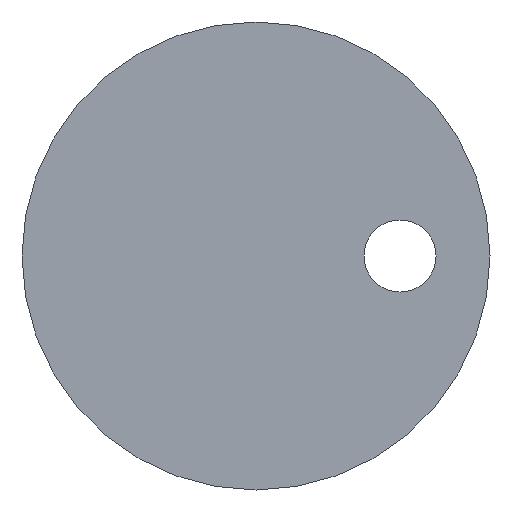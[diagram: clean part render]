
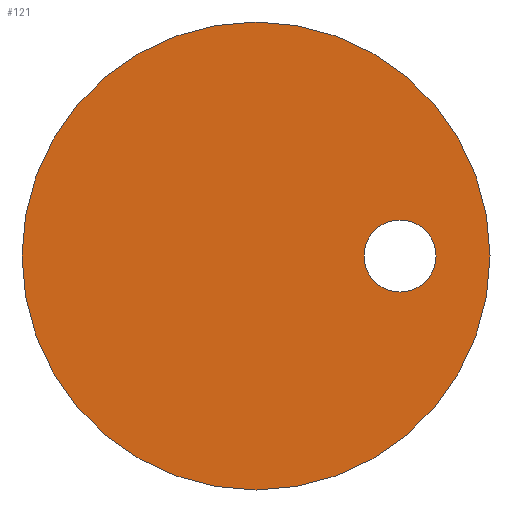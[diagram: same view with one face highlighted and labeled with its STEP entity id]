
A CAD part, front view. The second image highlights one B-rep face of the part: STEP entity #121.
In plain terms, the highlighted planar face has unit normal (0, -1, 0).
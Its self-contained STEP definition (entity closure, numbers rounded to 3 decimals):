
#10 = CARTESIAN_POINT ( 'NONE',  ( 4., 0., 1. ) ) ;
#12 = AXIS2_PLACEMENT_3D ( 'NONE', #65, #84, #15 ) ;
#13 = FACE_BOUND ( 'NONE', #149, .T. ) ;
#15 = DIRECTION ( 'NONE',  ( 0., 0., 1. ) ) ;
#21 = CARTESIAN_POINT ( 'NONE',  ( 4., 0., 0. ) ) ;
#38 = ORIENTED_EDGE ( 'NONE', *, *, #187, .T. ) ;
#51 = DIRECTION ( 'NONE',  ( 0., 1., 0. ) ) ;
#56 = AXIS2_PLACEMENT_3D ( 'NONE', #193, #153, #169 ) ;
#57 = VERTEX_POINT ( 'NONE', #126 ) ;
#59 = CIRCLE ( 'NONE', #56, 1. ) ;
#61 = AXIS2_PLACEMENT_3D ( 'NONE', #98, #194, #143 ) ;
#62 = CARTESIAN_POINT ( 'NONE',  ( 0., 0., 6.5 ) ) ;
#64 = AXIS2_PLACEMENT_3D ( 'NONE', #21, #209, #72 ) ;
#65 = CARTESIAN_POINT ( 'NONE',  ( 0., 0., 0. ) ) ;
#68 = EDGE_CURVE ( 'NONE', #158, #107, #59, .T. ) ;
#69 = PLANE ( 'NONE',  #61 ) ;
#72 = DIRECTION ( 'NONE',  ( 0., 0., 1. ) ) ;
#84 = DIRECTION ( 'NONE',  ( 0., 1., 0. ) ) ;
#86 = VERTEX_POINT ( 'NONE', #62 ) ;
#88 = CARTESIAN_POINT ( 'NONE',  ( 4., 0., -1. ) ) ;
#95 = FACE_OUTER_BOUND ( 'NONE', #197, .T. ) ;
#98 = CARTESIAN_POINT ( 'NONE',  ( 0., 0., 0. ) ) ;
#103 = EDGE_CURVE ( 'NONE', #57, #86, #137, .T. ) ;
#107 = VERTEX_POINT ( 'NONE', #10 ) ;
#116 = DIRECTION ( 'NONE',  ( 0., 0., 1. ) ) ;
#117 = CARTESIAN_POINT ( 'NONE',  ( 0., 0., 0. ) ) ;
#120 = AXIS2_PLACEMENT_3D ( 'NONE', #117, #51, #116 ) ;
#121 = ADVANCED_FACE ( 'NONE', ( #95, #13 ), #69, .F. ) ;
#126 = CARTESIAN_POINT ( 'NONE',  ( 0., 0., -6.5 ) ) ;
#137 = CIRCLE ( 'NONE', #120, 6.5 ) ;
#143 = DIRECTION ( 'NONE',  ( 0., 0., 1. ) ) ;
#144 = ORIENTED_EDGE ( 'NONE', *, *, #103, .F. ) ;
#149 = EDGE_LOOP ( 'NONE', ( #207, #38 ) ) ;
#150 = ORIENTED_EDGE ( 'NONE', *, *, #159, .F. ) ;
#153 = DIRECTION ( 'NONE',  ( 0., 1., 0. ) ) ;
#158 = VERTEX_POINT ( 'NONE', #88 ) ;
#159 = EDGE_CURVE ( 'NONE', #86, #57, #172, .T. ) ;
#169 = DIRECTION ( 'NONE',  ( 0., 0., 1. ) ) ;
#172 = CIRCLE ( 'NONE', #12, 6.5 ) ;
#180 = CIRCLE ( 'NONE', #64, 1. ) ;
#187 = EDGE_CURVE ( 'NONE', #107, #158, #180, .T. ) ;
#193 = CARTESIAN_POINT ( 'NONE',  ( 4., 0., 0. ) ) ;
#194 = DIRECTION ( 'NONE',  ( 0., 1., 0. ) ) ;
#197 = EDGE_LOOP ( 'NONE', ( #144, #150 ) ) ;
#207 = ORIENTED_EDGE ( 'NONE', *, *, #68, .T. ) ;
#209 = DIRECTION ( 'NONE',  ( 0., 1., 0. ) ) ;
